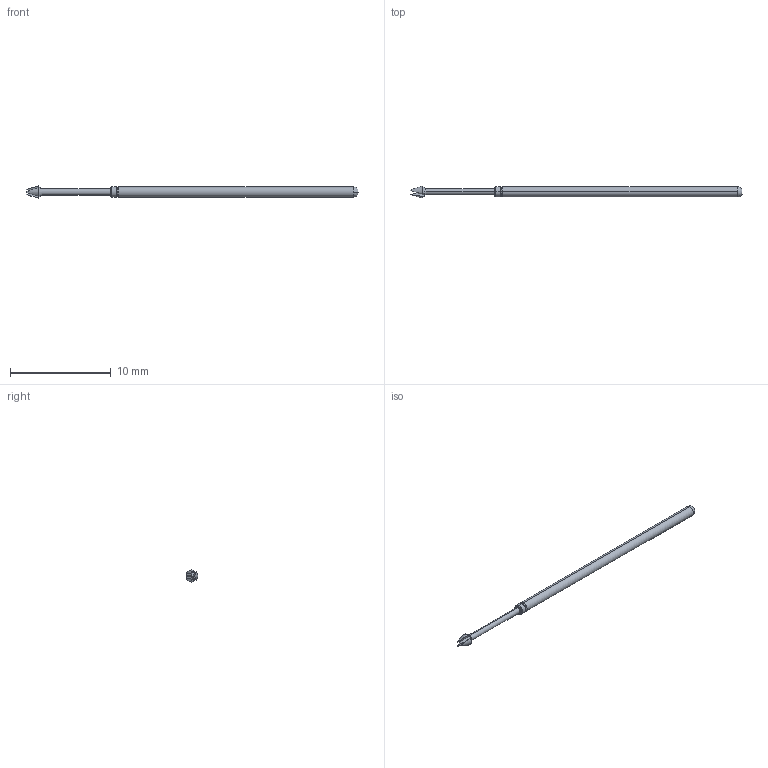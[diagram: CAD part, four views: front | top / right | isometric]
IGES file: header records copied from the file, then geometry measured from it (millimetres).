
Start section: SolidWorks IGES file using analytic representation for surfaces
Global section: file name: Z:\probe solid model mockups\Solidworks models\Parts\LFRE-1UN.IGS; native system: SolidWorks 2016; preprocessor: SolidWorks 2016; author: mlee; date: 180927.164057; units: inch
Bounding box: 33 x 1.17 x 1.19 mm (x, y, z)
Surface area: 97.7 mm2 (no closed solid volume)
Topology: 0 solids, 0 shells, 40 faces, 249 edges, 249 vertices
Faces by surface type: revolution 22, bspline 18
